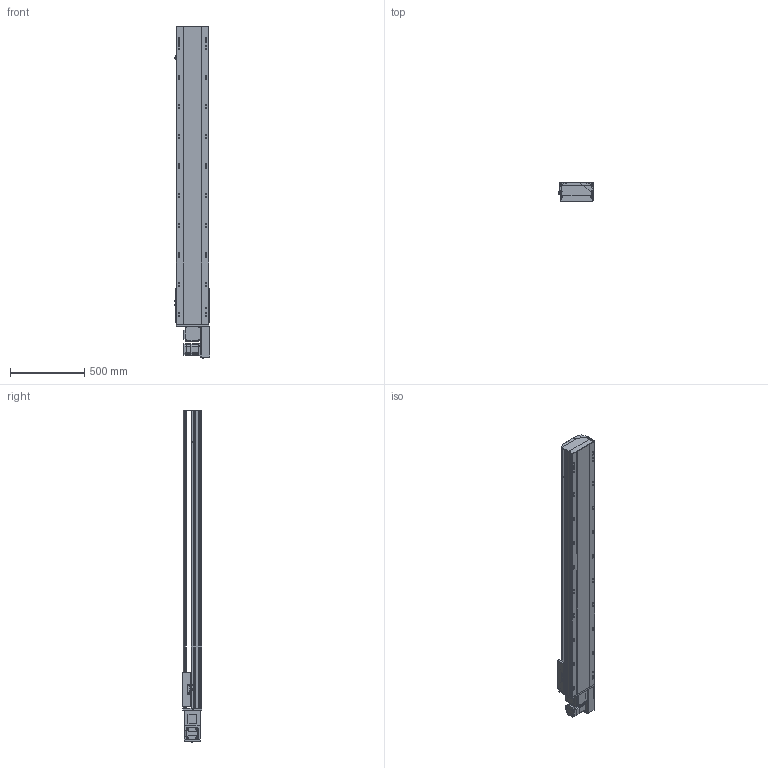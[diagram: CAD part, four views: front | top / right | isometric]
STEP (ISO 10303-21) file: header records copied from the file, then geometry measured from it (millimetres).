
FILE_DESCRIPTION (( 'STEP AP214' ), '1' );
FILE_NAME ('TPT22M-L40-1650-L-T75-C4.STEP', '2023-04-12T01:12:24', ( '' ), ( '' ), 'SwSTEP 2.0', 'SolidWorks 2020', '' );
FILE_SCHEMA (( 'AUTOMOTIVE_DESIGN' ));
Length unit declared in the file: millimetre
Products named in the file (9): 葩璃 TPT22-L-001 菁釱MZ-220-01^TPT22M-L40-L-T75-C4; TPT22M-L40-1650-L-T75-C4; 葩璃 TPT22-L-002 奻裔MZ-220-02^TPT22M-L40-L-T75-C4; 葩璃 TPT22-L-005 賑釱MZ-220-03^TPT22M-L40-L-T75-C4; 葩璃 pm-t65-672^TPT22M-L40-L-T75-C4; hexagon head bolts-full thread gb_GB_FASTENER_BOLT_STBAB A M5X16-N; 葩璃 TPT22-L-007 々湍釱^TPT22M-L40-L-T75-C4; 葩璃 TPT22-L-009 萇儂啣^TPT22M-L40-L-T75-C4; 葩璃 MSMD08PC_P75^TPT22M-L40-L-T75-C4
Assembly tree (10 placements, depth 2):
  TPT22M-L40-1650-L-T75-C4
    葩璃 TPT22-L-001 菁釱MZ-220-01^TPT22M-L40-L-T75-C4
    葩璃 TPT22-L-002 奻裔MZ-220-02^TPT22M-L40-L-T75-C4
    葩璃 TPT22-L-005 賑釱MZ-220-03^TPT22M-L40-L-T75-C4
    葩璃 TPT22-L-007 々湍釱^TPT22M-L40-L-T75-C4
    葩璃 TPT22-L-009 萇儂啣^TPT22M-L40-L-T75-C4
    葩璃 pm-t65-672^TPT22M-L40-L-T75-C4  x3
    葩璃 MSMD08PC_P75^TPT22M-L40-L-T75-C4
    hexagon head bolts-full thread gb_GB_FASTENER_BOLT_STBAB A M5X16-N
Bounding box: 239.2 x 134 x 2239.65 mm (x, y, z)
Volume: 28873630.5 mm3; surface area: 2967980.3 mm2
Topology: 17 solids, 17 shells, 1835 faces, 4837 edges, 3089 vertices
Faces by surface type: plane 985, cylinder 692, cone 136, bspline 22
Entity records: 52747 total; most frequent: CARTESIAN_POINT 10637, DIRECTION 8520, ORIENTED_EDGE 8186, EDGE_CURVE 4093, AXIS2_PLACEMENT_3D 2943, VERTEX_POINT 2661, LINE 2634, VECTOR 2634
